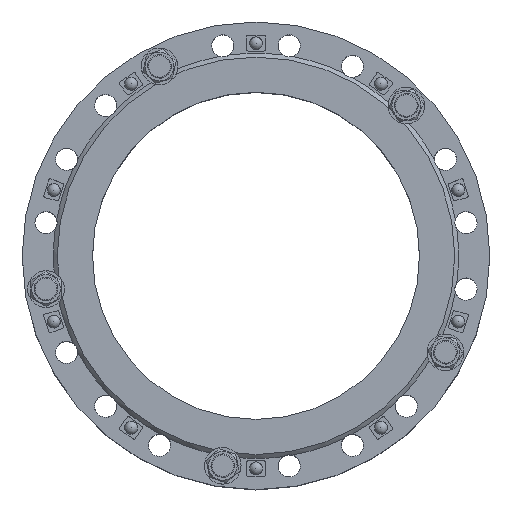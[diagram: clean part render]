
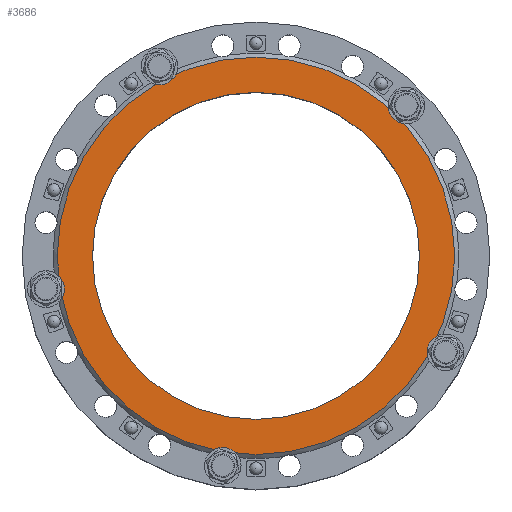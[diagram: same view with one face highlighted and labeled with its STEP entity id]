
A CAD part, top view. The second image highlights one B-rep face of the part: STEP entity #3686.
In plain terms, the highlighted planar face has unit normal (0, 0, 1) as drawn and (0, 0, -1) by its records, which use the part's own axes.
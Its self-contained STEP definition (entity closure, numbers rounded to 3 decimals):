
#3686=ADVANCED_FACE('',(#5786,#5788),#5790,.F.);
#5786=FACE_BOUND('',#5787,.T.);
#5787=EDGE_LOOP('',(#8443));
#5788=FACE_BOUND('',#5789,.T.);
#5789=EDGE_LOOP('',(#8444));
#5790=PLANE('',#5791);
#5791=AXIS2_PLACEMENT_3D('',#5792,#5793,#5794);
#5792=CARTESIAN_POINT('',(0.,0.,0.));
#5793=DIRECTION('',(0.,0.,1.));
#5794=DIRECTION('',(-1.,0.,0.));
#8443=ORIENTED_EDGE('',*,*,#9497,.F.);
#8444=ORIENTED_EDGE('',*,*,#9659,.T.);
#9497=EDGE_CURVE('',#10887,#10887,#10888,.T.);
#9659=EDGE_CURVE('',#11131,#11131,#11132,.T.);
#10887=VERTEX_POINT('',#19683);
#10888=CIRCLE('',#19684,303.8);
#11131=VERTEX_POINT('',#20293);
#11132=CIRCLE('',#20294,250.);
#19683=CARTESIAN_POINT('',(-303.8,0.,0.));
#19684=AXIS2_PLACEMENT_3D('',#19685,#19686,#19687);
#19685=CARTESIAN_POINT('',(0.,0.,0.));
#19686=DIRECTION('',(0.,0.,1.));
#19687=DIRECTION('',(-1.,0.,0.));
#20293=CARTESIAN_POINT('',(-250.,0.,0.));
#20294=AXIS2_PLACEMENT_3D('',#20295,#20296,#20297);
#20295=CARTESIAN_POINT('',(0.,0.,0.));
#20296=DIRECTION('',(0.,0.,1.));
#20297=DIRECTION('',(-1.,0.,0.));
